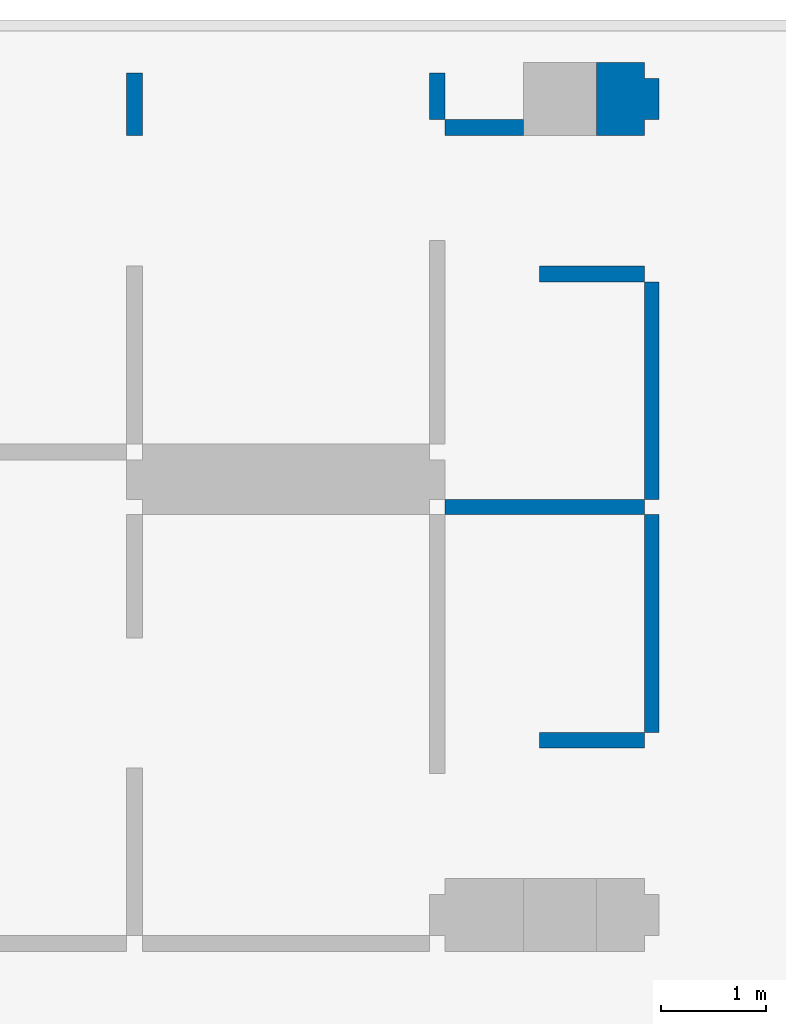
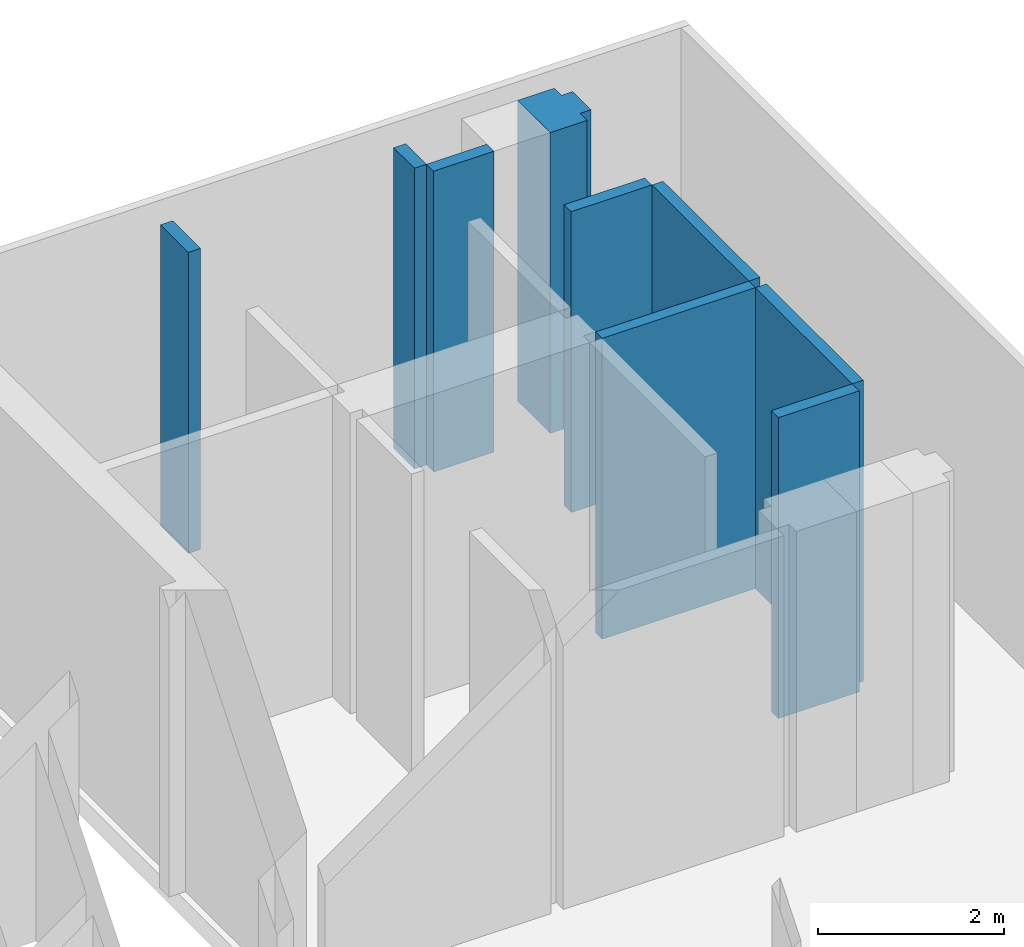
# One storey, part 3 of 4: 9 walls.
"""IFC4 building model written with IfcOpenShell, lengths in millimetres."""

import ifcopenshell
import ifcopenshell.guid

model = None  # the IFC model being written
_history = None  # IfcOwnerHistory: only IFC2X3 demands one
_inside = {}  # id of a spatial element -> (the spatial element, [elements in it])
_under = {}  # id of a project, library or spatial element -> (it, [spatial elements below it])
_declared = {}  # id of a project -> (the project, [libraries it declares])
_typed = {}  # id of a type object -> (the type object, [elements of that type])
_made_of = {}  # id of a material, layer set ... -> (it, [elements and type objects made of it])


def new_model(schema):
    """Start an empty IFC model of exactly this schema.

    Asked for "IFC4X3", IfcOpenShell would pick the latest addendum, in which some entities
    have other attributes; the version numbers below select the first issue.
    IFC2X3 requires an IfcOwnerHistory on every rooted entity: one is made here for all.
    """
    global model, _history
    if schema == "IFC4X3":
        model = ifcopenshell.file(schema_version=(4, 3, 0, 0))
    else:
        model = ifcopenshell.file(schema=schema)
    _inside.clear()
    _under.clear()
    _declared.clear()
    _typed.clear()
    _made_of.clear()
    _history = None
    if model.schema == "IFC2X3":
        org = make("IfcOrganization", Name="unknown")
        user = make(
            "IfcPersonAndOrganization",
            ThePerson=make("IfcPerson", FamilyName="unknown"),
            TheOrganization=org,
        )
        app = make(
            "IfcApplication",
            ApplicationDeveloper=org,
            Version="unknown",
            ApplicationFullName="unknown",
            ApplicationIdentifier="unknown",
        )
        _history = make(
            "IfcOwnerHistory",
            OwningUser=user,
            OwningApplication=app,
            ChangeAction="ADDED",
            CreationDate=0,
        )
    return model


def make(cls, **values):
    """One entity of the class cls with the attributes given. An attribute that is None is left unset."""
    return model.create_entity(
        cls, **{name: value for name, value in values.items() if value is not None}
    )


def rooted(cls, **values):
    """An entity with a GlobalId (a new one), such as an element, a storey or a relation."""
    return make(cls, GlobalId=ifcopenshell.guid.new(), OwnerHistory=_history, **values)


def si_unit(unit_type, name, prefix=None):
    """IfcSIUnit, for example si_unit("LENGTHUNIT", "METRE", prefix="MILLI")."""
    return make("IfcSIUnit", UnitType=unit_type, Prefix=prefix, Name=name)


def assignment(units):
    """IfcUnitAssignment: the units of a project."""
    return None if units is None else make("IfcUnitAssignment", Units=units)


def point(xyz):
    """IfcCartesianPoint."""
    return None if xyz is None else make("IfcCartesianPoint", Coordinates=xyz)


def direction(xyz):
    """IfcDirection."""
    return None if xyz is None else make("IfcDirection", DirectionRatios=xyz)


def frame(location, z_axis=None, x_axis=None):
    """IfcAxis2Placement3D, a coordinate frame: its origin and axes. An axis left out is left unset."""
    return make(
        "IfcAxis2Placement3D",
        Location=point(location),
        Axis=direction(z_axis),
        RefDirection=direction(x_axis),
    )


def origin():
    """The frame at (0, 0, 0) with its axes left unset."""
    return frame((0.0, 0.0, 0.0))


def place(relative_to, where):
    """IfcLocalPlacement: puts the frame where relative to a parent placement (None: the world)."""
    return make(
        "IfcLocalPlacement", PlacementRelTo=relative_to, RelativePlacement=where
    )


def context(
    kind, dimensions, precision=None, world=None, true_north=None, identifier=None
):
    """IfcGeometricRepresentationContext, for example the 3D "Model" context."""
    return make(
        "IfcGeometricRepresentationContext",
        ContextIdentifier=identifier,
        ContextType=kind,
        CoordinateSpaceDimension=dimensions,
        Precision=precision,
        WorldCoordinateSystem=world,
        TrueNorth=true_north,
    )


def project(units=None, contexts=None):
    """IfcProject with its units and contexts."""
    return rooted(
        "IfcProject",
        Name="project",
        RepresentationContexts=contexts,
        UnitsInContext=assignment(units),
    )


def spatial(cls, under=None, at=None, **own):
    """A site, building, storey or space (cls), placed at a placement, below another one or the project."""
    s = rooted(cls, ObjectPlacement=at, **own)
    if under is not None:
        _under.setdefault(under.id(), (under, []))[1].append(s)
    return s


def point_list(points):
    """IfcCartesianPointList2D or 3D."""
    cls = (
        "IfcCartesianPointList2D" if len(points[0]) == 2 else "IfcCartesianPointList3D"
    )
    return make(cls, CoordList=points)


def triangles(points, corners, closed=None, point_numbers=None):
    """IfcTriangulatedFaceSet: each triangle names its three corners, points numbered from 1."""
    return make(
        "IfcTriangulatedFaceSet",
        Coordinates=point_list(points),
        Closed=closed,
        CoordIndex=corners,
        PnIndex=point_numbers,
    )


def shape(context_of_items, identifier, shape_type, items):
    """IfcShapeRepresentation: the items that make up one representation, for example the "Body"."""
    return make(
        "IfcShapeRepresentation",
        ContextOfItems=context_of_items,
        RepresentationIdentifier=identifier,
        RepresentationType=shape_type,
        Items=items,
    )


def made_of(thing, what):
    """Note that an element or type object is made of a material, layer set ...; save() writes the relation."""
    if what is not None:
        _made_of.setdefault(what.id(), (what, []))[1].append(thing)
    return thing


def element(
    cls,
    number,
    at=None,
    inside=None,
    cuts=None,
    type_object=None,
    material=None,
    context=None,
    identifier="Body",
    shape_type=None,
    held_by="IfcProductDefinitionShape",
    body=None,
    shapes=None,
    **own,
):
    """One element of the class cls, such as IfcWall. Its Tag is "e" and its number.

    at: its placement. inside: the storey or other place that contains it. cuts: it is an
    opening in that element (IfcRelVoidsElement). A single representation is given by context,
    identifier, shape_type and body (its items); several are given by shapes. held_by: the class
    of the entity that holds the representations. save() writes the other relations.
    """
    e = rooted(cls, Tag="e%d" % number, ObjectPlacement=at, **own)
    if body is not None:
        shapes = [shape(context, identifier, shape_type, body)]
    if shapes is not None:
        e.Representation = make(held_by, Representations=shapes)
    if inside is not None:
        _inside.setdefault(inside.id(), (inside, []))[1].append(e)
    if cuts is not None:
        rooted(
            "IfcRelVoidsElement", RelatingBuildingElement=cuts, RelatedOpeningElement=e
        )
    if type_object is not None:
        _typed.setdefault(type_object.id(), (type_object, []))[1].append(e)
    return made_of(e, material)


def aggregate(whole, parts):
    """IfcRelAggregates: a whole, such as a stair, and the parts it consists of."""
    return rooted("IfcRelAggregates", RelatingObject=whole, RelatedObjects=parts)


def save(model, path):
    """Write the relations noted so far, then the file.

    IfcRelAggregates (storeys below a building ...), IfcRelContainedInSpatialStructure (elements
    in a storey), IfcRelDefinesByType, IfcRelAssociatesMaterial and IfcRelDeclares: one each for
    every whole, place, type object, material and project.
    """
    for whole, parts in _under.values():
        aggregate(whole, parts)
    for where, things in _inside.values():
        rooted(
            "IfcRelContainedInSpatialStructure",
            RelatedElements=things,
            RelatingStructure=where,
        )
    for kind, things in _typed.values():
        rooted("IfcRelDefinesByType", RelatedObjects=things, RelatingType=kind)
    for what, things in _made_of.values():
        rooted("IfcRelAssociatesMaterial", RelatedObjects=things, RelatingMaterial=what)
    for by, libraries in _declared.values():
        rooted("IfcRelDeclares", RelatingContext=by, RelatedDefinitions=libraries)
    model.write(path)


model = new_model("IFC4")

# Units and contexts
model_context = context("Model", 3, precision=0.001, world=origin())
ifc_project = project(units=[si_unit("LENGTHUNIT", "METRE", prefix="MILLI"), si_unit("AREAUNIT", "SQUARE_METRE"), si_unit("VOLUMEUNIT", "CUBIC_METRE")], contexts=[model_context])

# Site, building, storey
site_placement = place(None, origin())
site = spatial("IfcSite", under=ifc_project, at=site_placement, Name="Site", CompositionType="ELEMENT")
building_placement = place(site_placement, origin())
building = spatial("IfcBuilding", under=site, at=building_placement, Name="INNOCEAN", CompositionType="ELEMENT")
storey_placement = place(building_placement, frame((0.0, 0.0, 63800.0)))
storey = spatial("IfcBuildingStorey", under=building, at=storey_placement, Name="F15", CompositionType="ELEMENT", Elevation=63800.0)

# Walls
wall_1_placement = place(storey_placement, origin())
element("IfcWall", 1, at=wall_1_placement, inside=storey, Name="F15_Walls_F15_063", context=model_context, shape_type="Tessellation", body=[
    triangles([(43620.0, 25320.0, 0.0), (43620.0, 25320.0, 3950.0), (43770.0, 25320.0, 3950.0), (43770.0, 25320.0, 0.0), (43770.0, 25317.9, 0.0), (43770.0, 25317.9, 3950.0), (43770.5, 25317.9, 0.0), (43770.5, 25317.9, 3950.0), (43770.5, 24721.0, 0.0), (43770.5, 24721.0, 3950.0), (43770.0, 24721.0, 0.0), (43770.0, 24721.0, 3950.0), (43770.0, 24720.0, 0.0), (43770.0, 24720.0, 3950.0), (43620.0, 24720.0, 3950.0), (43620.0, 24720.0, 0.0), (43620.0, 24721.0, 0.0), (43620.0, 24721.0, 3950.0), (43618.2, 24721.0, 3950.0), (43618.2, 24721.0, 0.0), (43618.2, 25317.9, 0.0), (43618.2, 25317.9, 3950.0), (43620.0, 25317.9, 3950.0), (43620.0, 25317.9, 0.0)], [[1, 2, 3], [4, 1, 3], [5, 4, 3], [5, 3, 6], [7, 5, 6], [7, 6, 8], [9, 7, 8], [9, 8, 10], [11, 9, 10], [11, 10, 12], [13, 11, 12], [13, 12, 14], [13, 14, 15], [16, 13, 15], [17, 16, 15], [17, 15, 18], [17, 18, 19], [20, 17, 19], [21, 20, 19], [21, 19, 22], [21, 22, 23], [24, 21, 23], [1, 24, 23], [1, 23, 2], [17, 11, 13], [17, 13, 16], [7, 9, 11], [5, 7, 11], [5, 11, 17], [24, 5, 17], [21, 17, 20], [21, 24, 17], [1, 4, 5], [1, 5, 24], [12, 18, 14], [14, 18, 15], [10, 8, 12], [8, 6, 12], [12, 6, 18], [6, 23, 18], [18, 22, 19], [23, 22, 18], [3, 2, 6], [6, 2, 23]], closed=True),
])
wall_2_placement = place(storey_placement, origin())
element("IfcWall", 2, at=wall_2_placement, inside=storey, Name="F15_Walls_F15_071", context=model_context, shape_type="Tessellation", body=[
    triangles([(48568.5, 18865.7, 0.0), (48568.5, 19018.1, 0.0), (48568.5, 19018.1, 3950.0), (48568.5, 18865.7, 3950.0), (47565.8, 18865.7, 0.0), (47565.8, 18865.7, 3950.0), (47565.8, 19018.1, 0.0), (47565.8, 19018.1, 3950.0)], [[1, 2, 3], [1, 3, 4], [5, 1, 4], [5, 4, 6], [7, 5, 6], [7, 6, 8], [2, 7, 8], [2, 8, 3], [7, 2, 1], [7, 1, 5], [3, 8, 4], [4, 8, 6]], closed=True),
])
wall_3_placement = place(storey_placement, origin())
element("IfcWall", 3, at=wall_3_placement, inside=storey, Name="F15_Walls_F15_073", context=model_context, shape_type="Tessellation", body=[
    triangles([(48568.5, 19018.1, 0.0), (48708.1, 19018.1, 0.0), (48708.1, 19018.1, 3950.0), (48568.5, 19018.1, 3950.0), (48568.5, 21101.1, 0.0), (48568.5, 21101.1, 3950.0), (48708.1, 21101.1, 0.0), (48708.1, 21101.1, 3950.0)], [[1, 2, 3], [1, 3, 4], [5, 1, 4], [5, 4, 6], [7, 5, 6], [7, 6, 8], [2, 7, 8], [2, 8, 3], [5, 2, 1], [5, 7, 2], [3, 6, 4], [8, 6, 3]], closed=True),
])
wall_4_placement = place(storey_placement, origin())
element("IfcWall", 4, at=wall_4_placement, inside=storey, Name="F15_Walls_F15_076", context=model_context, shape_type="Tessellation", body=[
    triangles([(48568.5, 21240.8, 0.0), (48568.5, 21240.8, 3950.0), (48568.5, 21101.1, 3950.0), (48568.5, 21101.1, 0.0), (46664.5, 21101.1, 3950.0), (46664.5, 21101.1, 0.0), (46664.5, 21240.8, 3950.0), (46664.5, 21240.8, 0.0)], [[1, 2, 3], [4, 1, 3], [4, 3, 5], [6, 4, 5], [6, 5, 7], [8, 6, 7], [8, 7, 2], [1, 8, 2], [8, 1, 4], [8, 4, 6], [2, 7, 3], [3, 7, 5]], closed=True),
])
wall_5_placement = place(storey_placement, origin())
element("IfcWall", 5, at=wall_5_placement, inside=storey, Name="F15_Walls_F15_077", context=model_context, shape_type="Tessellation", body=[
    triangles([(48708.1, 21240.8, 0.0), (48708.1, 23323.8, 0.0), (48708.1, 23323.8, 3950.0), (48708.1, 21240.8, 3950.0), (48568.5, 21240.8, 0.0), (48568.5, 21240.8, 3950.0), (48568.5, 23323.8, 0.0), (48568.5, 23323.8, 3950.0)], [[1, 2, 3], [1, 3, 4], [5, 1, 4], [5, 4, 6], [7, 5, 6], [7, 6, 8], [2, 7, 8], [2, 8, 3], [7, 2, 1], [7, 1, 5], [3, 8, 4], [4, 8, 6]], closed=True),
])
wall_6_placement = place(storey_placement, origin())
element("IfcWall", 6, at=wall_6_placement, inside=storey, Name="F15_Walls_F15_079", context=model_context, shape_type="Tessellation", body=[
    triangles([(48568.5, 23323.8, 0.0), (48568.5, 23476.2, 0.0), (48568.5, 23476.2, 3950.0), (48568.5, 23323.8, 3950.0), (47565.8, 23323.8, 0.0), (47565.8, 23323.8, 3950.0), (47565.8, 23476.2, 0.0), (47565.8, 23476.2, 3950.0)], [[1, 2, 3], [1, 3, 4], [5, 1, 4], [5, 4, 6], [7, 5, 6], [7, 6, 8], [2, 7, 8], [2, 8, 3], [7, 2, 1], [7, 1, 5], [3, 8, 4], [4, 8, 6]], closed=True),
])
wall_7_placement = place(storey_placement, origin())
element("IfcWall", 7, at=wall_7_placement, inside=storey, Name="F15_Walls_F15_080", context=model_context, shape_type="Tessellation", body=[
    triangles([(47413.4, 24721.0, 0.0), (47413.4, 24873.4, 0.0), (47413.4, 24873.4, 3950.0), (47413.4, 24721.0, 3950.0), (46664.5, 24721.0, 0.0), (46664.5, 24721.0, 3950.0), (46664.5, 24873.4, 0.0), (46664.5, 24873.4, 3950.0)], [[1, 2, 3], [1, 3, 4], [5, 1, 4], [5, 4, 6], [7, 5, 6], [7, 6, 8], [2, 7, 8], [2, 8, 3], [7, 2, 1], [7, 1, 5], [3, 8, 4], [4, 8, 6]], closed=True),
])
wall_8_placement = place(storey_placement, origin())
element("IfcWall", 8, at=wall_8_placement, inside=storey, Name="F15_Walls_F15_081", context=model_context, shape_type="Tessellation", body=[
    triangles([(48568.5, 25419.5, 0.0), (48111.6, 25419.5, 0.0), (48111.6, 25419.5, 3950.0), (48568.5, 25419.5, 3950.0), (48568.5, 25267.1, 0.0), (48568.5, 25267.1, 3950.0), (48708.1, 25267.1, 0.0), (48708.1, 25267.1, 3950.0), (48708.1, 24873.4, 3950.0), (48708.1, 24873.4, 0.0), (48568.5, 24873.4, 0.0), (48568.5, 24873.4, 3950.0), (48568.5, 24721.0, 0.0), (48568.5, 24721.0, 3950.0), (48111.6, 24721.0, 0.0), (48111.6, 24721.0, 3950.0), (48111.6, 24873.4, 0.0), (48111.6, 24873.4, 3950.0), (48111.6, 25267.1, 3950.0), (48111.6, 25267.1, 0.0)], [[1, 2, 3], [1, 3, 4], [5, 1, 4], [5, 4, 6], [7, 5, 6], [7, 6, 8], [7, 8, 9], [10, 7, 9], [11, 10, 9], [11, 9, 12], [13, 11, 12], [13, 12, 14], [15, 13, 14], [15, 14, 16], [17, 15, 16], [17, 16, 18], [17, 18, 19], [20, 17, 19], [2, 20, 19], [2, 19, 3], [7, 10, 11], [5, 7, 11], [17, 11, 13], [17, 13, 15], [20, 11, 17], [20, 5, 11], [2, 1, 5], [2, 5, 20], [9, 8, 12], [8, 6, 12], [12, 18, 14], [14, 18, 16], [12, 19, 18], [6, 19, 12], [4, 3, 6], [6, 3, 19]], closed=True),
])
wall_9_placement = place(storey_placement, origin())
element("IfcWall", 9, at=wall_9_placement, inside=storey, Name="F15_Walls_F15_082", context=model_context, shape_type="Tessellation", body=[
    triangles([(46512.2, 24873.4, 0.0), (46664.5, 24873.4, 0.0), (46664.5, 24873.4, 3950.0), (46512.2, 24873.4, 3950.0), (46512.2, 25317.9, 0.0), (46512.2, 25317.9, 3950.0), (46664.5, 25317.9, 0.0), (46664.5, 25317.9, 3950.0)], [[1, 2, 3], [1, 3, 4], [5, 1, 4], [5, 4, 6], [7, 5, 6], [7, 6, 8], [2, 7, 8], [2, 8, 3], [5, 2, 1], [5, 7, 2], [3, 6, 4], [8, 6, 3]], closed=True),
])

save(model, "model.ifc")
